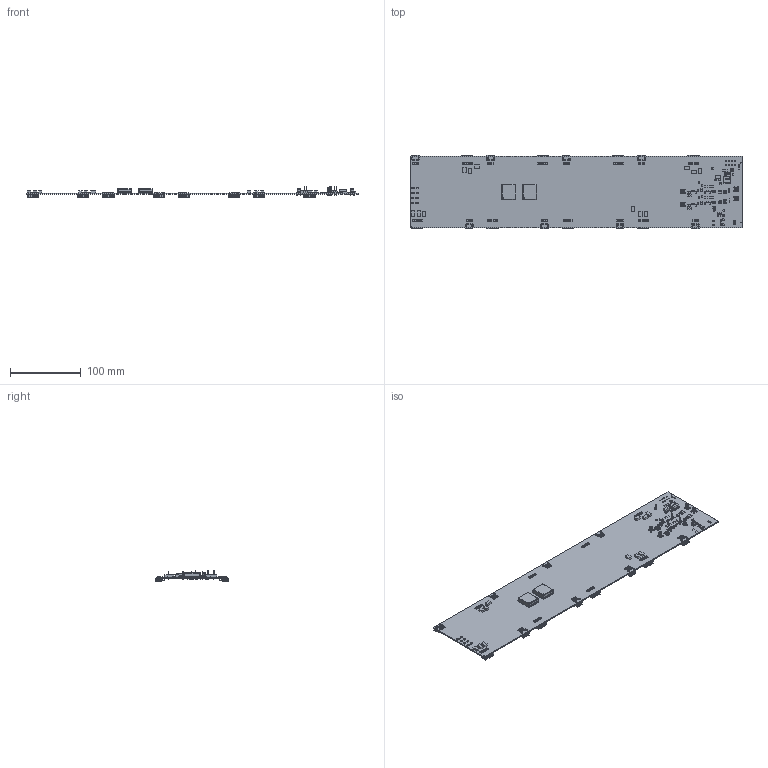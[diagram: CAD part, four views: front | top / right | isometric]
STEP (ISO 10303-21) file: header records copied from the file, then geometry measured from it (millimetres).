
FILE_DESCRIPTION(('Open CASCADE Model'),'2;1');
FILE_NAME('Open CASCADE Shape Model','2021-06-17T10:31:21',('Author'),( 'Open CASCADE'),'Open CASCADE STEP processor 6.8','Open CASCADE 6.8' ,'Unknown');
FILE_SCHEMA(('AUTOMOTIVE_DESIGN { 1 0 10303 214 1 1 1 1 }'));
Length unit declared in the file: millimetre
Products named in the file (227): PCB; Board; R38A; User_Library-1206_SMD_Resistor; R37A; R36A; R35A; R34A; R33A; R32A; R31A; R18A; R17A; R16A; R15A; R14A; R13A; R12A; R11A; C7; 1374658968; Extruded; D1; CircuitWorks-SOD123; D2; TP10; 61300111121; 6130xx11121_PIN; TP9; TP2; TP1; R65; R64; R63; R62; R61; R60; R52; R42; R38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
Assembly tree (355 placements, depth 10):
  PCB
    Board
    R38A
      User_Library-1206_SMD_Resistor
    R37A
      User_Library-1206_SMD_Resistor
    R36A
      User_Library-1206_SMD_Resistor
    R35A
      User_Library-1206_SMD_Resistor
    R34A
      User_Library-1206_SMD_Resistor
    R33A
      User_Library-1206_SMD_Resistor
    R32A
      User_Library-1206_SMD_Resistor
    R31A
      User_Library-1206_SMD_Resistor
    R18A
      User_Library-1206_SMD_Resistor
    R17A
      User_Library-1206_SMD_Resistor
    R16A
      User_Library-1206_SMD_Resistor
    R15A
      User_Library-1206_SMD_Resistor
    R14A
      User_Library-1206_SMD_Resistor
    R13A
      User_Library-1206_SMD_Resistor
    R12A
      User_Library-1206_SMD_Resistor
    R11A
      User_Library-1206_SMD_Resistor
    C7
      1374658968
        Extruded
    D1
      CircuitWorks-SOD123
    D2
      CircuitWorks-SOD123
    TP10
      61300111121
        6130xx11121_PIN
        61300111121
    TP9
      61300111121
        6130xx11121_PIN
        61300111121
    TP2
      61300111121
        6130xx11121_PIN
        61300111121
    TP1
      61300111121
        6130xx11121_PIN
        61300111121
    R65
      User_Library-1206_SMD_Resistor
    R64
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Bounding box: 469.9 x 103.96 x 15.99 mm (x, y, z)
Volume: 87337.7 mm3; surface area: 125531.9 mm2
Topology: 214 solids, 218 shells, 11876 faces, 30099 edges, 18706 vertices
Faces by surface type: plane 6697, bspline 2420, cylinder 2169, sphere 546, cone 44
Full cylindrical faces by diameter (mm): 0.57 x4, 0.762 x3, 0.8 x6, 0.914 x8, 0.96 x4, 0.965 x160, 1 x12, 1.1 x8, 1.4 x16, 1.422 x8, 1.85 x4, 2.75 x4, 2.8 x4, 3.1 x8, 3.45 x4, 3.68 x4, 4.5 x4
Entity records: 65298 total; most frequent: CARTESIAN_POINT 11873, DIRECTION 8852, ORIENTED_EDGE 8614, EDGE_CURVE 4311, LINE 3408, VECTOR 3408, VERTEX_POINT 2835, AXIS2_PLACEMENT_3D 2722
